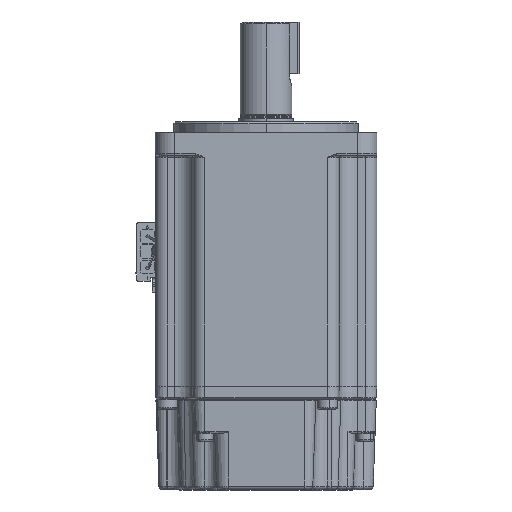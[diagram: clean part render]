
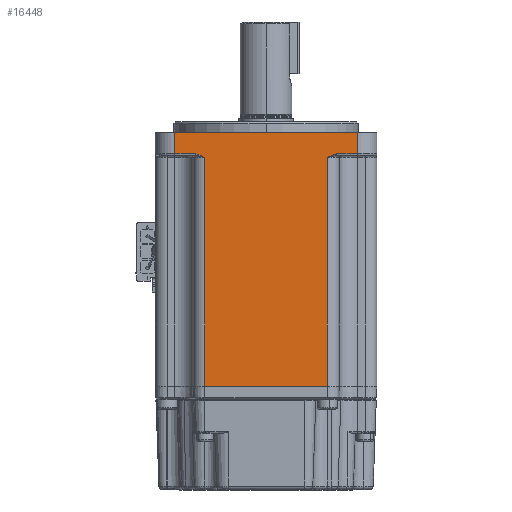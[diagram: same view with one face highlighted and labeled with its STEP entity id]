
A CAD part, front view. The second image highlights one B-rep face of the part: STEP entity #16448.
In plain terms, the highlighted planar face has unit normal (0, -1, 0).
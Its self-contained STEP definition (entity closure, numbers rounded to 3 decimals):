
#1436 = VECTOR ( 'NONE', #53314, 1000. ) ;
#2082 = CARTESIAN_POINT ( 'NONE',  ( 24.7, -30., -9. ) ) ;
#2928 = CARTESIAN_POINT ( 'NONE',  ( -16.549, -30., 82.153 ) ) ;
#5582 = EDGE_CURVE ( 'NONE', #25144, #16948, #7658, .T. ) ;
#6719 = VERTEX_POINT ( 'NONE', #48904 ) ;
#6758 = LINE ( 'NONE', #53440, #30313 ) ;
#7658 = B_SPLINE_CURVE_WITH_KNOTS ( 'NONE', 3,
 ( #23097, #43368, #16829, #17155, #47382, #63067, #7745, #32388 ),
 .UNSPECIFIED., .F., .F.,
 ( 4, 2, 2, 4 ),
 ( 0., 0.001, 0.002, 0.003 ),
 .UNSPECIFIED. ) ;
#7745 = CARTESIAN_POINT ( 'NONE',  ( 18.846, -30., -9. ) ) ;
#8183 = DIRECTION ( 'NONE',  ( 0., 0., 1. ) ) ;
#8708 = EDGE_LOOP ( 'NONE', ( #27234, #26300, #19494, #33174, #56609, #48611, #31203, #48865, #62169, #60730 ) ) ;
#8874 = VECTOR ( 'NONE', #39962, 1000. ) ;
#9483 = CARTESIAN_POINT ( 'NONE',  ( 24.7, -30., -3.3 ) ) ;
#10399 = VERTEX_POINT ( 'NONE', #33862 ) ;
#11204 = VERTEX_POINT ( 'NONE', #42851 ) ;
#12273 = VERTEX_POINT ( 'NONE', #48490 ) ;
#12665 = VECTOR ( 'NONE', #31067, 1000. ) ;
#12779 = CARTESIAN_POINT ( 'NONE',  ( -17.957, -30., -9.239 ) ) ;
#13112 = CARTESIAN_POINT ( 'NONE',  ( -17.332, -30., -9.522 ) ) ;
#13228 = LINE ( 'NONE', #59211, #21449 ) ;
#13447 = CARTESIAN_POINT ( 'NONE',  ( 24.7, -30., -71.8 ) ) ;
#16448 = ADVANCED_FACE ( 'NONE', ( #53740 ), #38361, .F. ) ;
#16829 = CARTESIAN_POINT ( 'NONE',  ( 17.332, -30., -9.522 ) ) ;
#16948 = VERTEX_POINT ( 'NONE', #48062 ) ;
#17155 = CARTESIAN_POINT ( 'NONE',  ( 17.957, -30., -9.239 ) ) ;
#17215 = B_SPLINE_CURVE_WITH_KNOTS ( 'NONE', 3,
 ( #44367, #23434, #48046, #63391, #12779, #13112, #59086, #54103 ),
 .UNSPECIFIED., .F., .F.,
 ( 4, 2, 2, 4 ),
 ( 0., 0.001, 0.001, 0.003 ),
 .UNSPECIFIED. ) ;
#17522 = DIRECTION ( 'NONE',  ( 1., 0., 0. ) ) ;
#18900 = EDGE_CURVE ( 'NONE', #10399, #6719, #45030, .T. ) ;
#19494 = ORIENTED_EDGE ( 'NONE', *, *, #59877, .T. ) ;
#21449 = VECTOR ( 'NONE', #8183, 1000. ) ;
#22727 = VECTOR ( 'NONE', #59763, 1000. ) ;
#23097 = CARTESIAN_POINT ( 'NONE',  ( 16.549, -30., -10. ) ) ;
#23434 = CARTESIAN_POINT ( 'NONE',  ( -18.846, -30., -9. ) ) ;
#25144 = VERTEX_POINT ( 'NONE', #38101 ) ;
#25928 = VECTOR ( 'NONE', #65375, 1000. ) ;
#26300 = ORIENTED_EDGE ( 'NONE', *, *, #34371, .T. ) ;
#27096 = DIRECTION ( 'NONE',  ( 0., 0., -1. ) ) ;
#27234 = ORIENTED_EDGE ( 'NONE', *, *, #61763, .T. ) ;
#28524 = EDGE_CURVE ( 'NONE', #12273, #48271, #6758, .T. ) ;
#30313 = VECTOR ( 'NONE', #27096, 1000. ) ;
#31067 = DIRECTION ( 'NONE',  ( -1., 0., 0. ) ) ;
#31203 = ORIENTED_EDGE ( 'NONE', *, *, #39429, .T. ) ;
#31276 = EDGE_CURVE ( 'NONE', #6719, #65456, #57207, .T. ) ;
#32388 = CARTESIAN_POINT ( 'NONE',  ( 19.079, -30., -9. ) ) ;
#33174 = ORIENTED_EDGE ( 'NONE', *, *, #5582, .T. ) ;
#33862 = CARTESIAN_POINT ( 'NONE',  ( -24.7, -30., -3.3 ) ) ;
#34371 = EDGE_CURVE ( 'NONE', #54704, #34454, #45033, .T. ) ;
#34454 = VERTEX_POINT ( 'NONE', #61348 ) ;
#36069 = LINE ( 'NONE', #9483, #12665 ) ;
#36447 = CARTESIAN_POINT ( 'NONE',  ( -16.549, -30., -9. ) ) ;
#37132 = AXIS2_PLACEMENT_3D ( 'NONE', #39025, #59418, #50675 ) ;
#37949 = LINE ( 'NONE', #58338, #1436 ) ;
#38101 = CARTESIAN_POINT ( 'NONE',  ( 16.549, -30., -10. ) ) ;
#38361 = PLANE ( 'NONE',  #37132 ) ;
#39025 = CARTESIAN_POINT ( 'NONE',  ( 24.7, -30., 82.153 ) ) ;
#39429 = EDGE_CURVE ( 'NONE', #12273, #10399, #36069, .T. ) ;
#39962 = DIRECTION ( 'NONE',  ( 0., 0., -1. ) ) ;
#41366 = VECTOR ( 'NONE', #17522, 1000. ) ;
#42851 = CARTESIAN_POINT ( 'NONE',  ( -16.549, -30., -10. ) ) ;
#43368 = CARTESIAN_POINT ( 'NONE',  ( 16.939, -30., -9.762 ) ) ;
#44367 = CARTESIAN_POINT ( 'NONE',  ( -19.079, -30., -9. ) ) ;
#45030 = LINE ( 'NONE', #66030, #22727 ) ;
#45033 = LINE ( 'NONE', #13447, #25928 ) ;
#47382 = CARTESIAN_POINT ( 'NONE',  ( 18.174, -30., -9.156 ) ) ;
#48046 = CARTESIAN_POINT ( 'NONE',  ( -18.619, -30., -9.037 ) ) ;
#48062 = CARTESIAN_POINT ( 'NONE',  ( 19.079, -30., -9. ) ) ;
#48271 = VERTEX_POINT ( 'NONE', #2082 ) ;
#48490 = CARTESIAN_POINT ( 'NONE',  ( 24.7, -30., -3.3 ) ) ;
#48611 = ORIENTED_EDGE ( 'NONE', *, *, #28524, .F. ) ;
#48865 = ORIENTED_EDGE ( 'NONE', *, *, #18900, .T. ) ;
#48904 = CARTESIAN_POINT ( 'NONE',  ( -24.7, -30., -9. ) ) ;
#50503 = EDGE_CURVE ( 'NONE', #16948, #48271, #37949, .T. ) ;
#50675 = DIRECTION ( 'NONE',  ( -1., 0., 0. ) ) ;
#51388 = EDGE_CURVE ( 'NONE', #65456, #11204, #17215, .T. ) ;
#53314 = DIRECTION ( 'NONE',  ( 1., 0., 0. ) ) ;
#53440 = CARTESIAN_POINT ( 'NONE',  ( 24.7, -30., 82.153 ) ) ;
#53685 = LINE ( 'NONE', #2928, #8874 ) ;
#53740 = FACE_OUTER_BOUND ( 'NONE', #8708, .T. ) ;
#54103 = CARTESIAN_POINT ( 'NONE',  ( -16.549, -30., -10. ) ) ;
#54704 = VERTEX_POINT ( 'NONE', #59703 ) ;
#56177 = CARTESIAN_POINT ( 'NONE',  ( -19.079, -30., -9. ) ) ;
#56609 = ORIENTED_EDGE ( 'NONE', *, *, #50503, .T. ) ;
#57207 = LINE ( 'NONE', #36447, #41366 ) ;
#58338 = CARTESIAN_POINT ( 'NONE',  ( 24.7, -30., -9. ) ) ;
#59086 = CARTESIAN_POINT ( 'NONE',  ( -16.941, -30., -9.761 ) ) ;
#59211 = CARTESIAN_POINT ( 'NONE',  ( 16.549, -30., 82.153 ) ) ;
#59418 = DIRECTION ( 'NONE',  ( 0., 1., 0. ) ) ;
#59703 = CARTESIAN_POINT ( 'NONE',  ( -16.549, -30., -71.8 ) ) ;
#59763 = DIRECTION ( 'NONE',  ( 0., 0., -1. ) ) ;
#59877 = EDGE_CURVE ( 'NONE', #34454, #25144, #13228, .T. ) ;
#60730 = ORIENTED_EDGE ( 'NONE', *, *, #51388, .T. ) ;
#61348 = CARTESIAN_POINT ( 'NONE',  ( 16.549, -30., -71.8 ) ) ;
#61763 = EDGE_CURVE ( 'NONE', #11204, #54704, #53685, .T. ) ;
#62169 = ORIENTED_EDGE ( 'NONE', *, *, #31276, .T. ) ;
#63067 = CARTESIAN_POINT ( 'NONE',  ( 18.619, -30., -9.037 ) ) ;
#63391 = CARTESIAN_POINT ( 'NONE',  ( -18.174, -30., -9.156 ) ) ;
#65375 = DIRECTION ( 'NONE',  ( 1., 0., 0. ) ) ;
#65456 = VERTEX_POINT ( 'NONE', #56177 ) ;
#66030 = CARTESIAN_POINT ( 'NONE',  ( -24.7, -30., 82.153 ) ) ;
